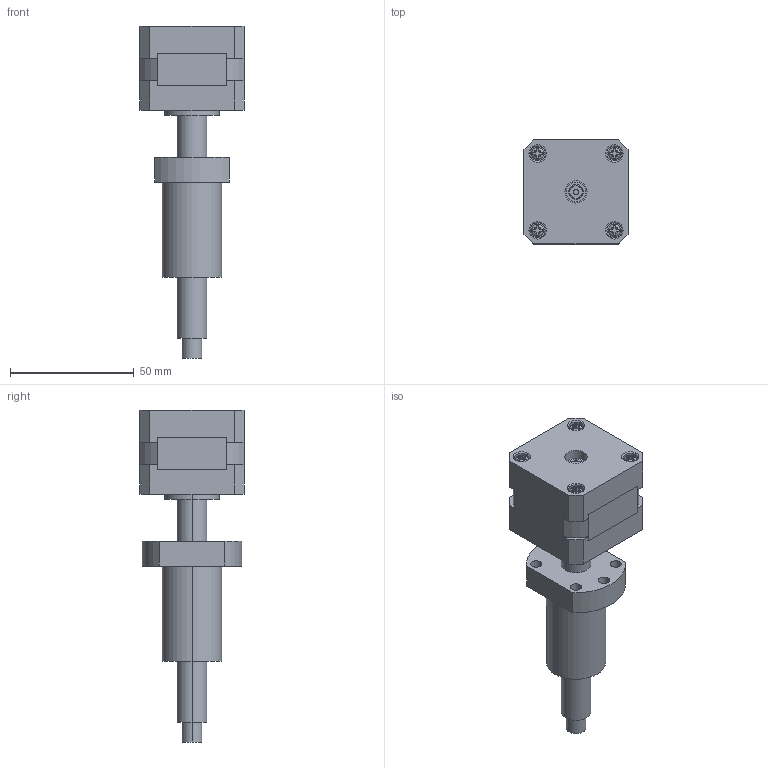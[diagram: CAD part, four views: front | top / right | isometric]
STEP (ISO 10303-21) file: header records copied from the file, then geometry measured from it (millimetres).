
FILE_DESCRIPTION (( 'STEP AP203' ), '1' );
FILE_NAME ('42SE1834-415-BS1210-100-01.STEP', '2022-06-30T12:14:57', ( 'USER-' ), ( 'MS' ), 'SwSTEP 2.0', 'SolidWorks 2018', '' );
FILE_SCHEMA (( 'CONFIG_CONTROL_DESIGN' ));
Length unit declared in the file: millimetre
Products named in the file (1): 42SE1834-415-BS1210-100-01
Bounding box: 42 x 42 x 134 mm (x, y, z)
Volume: 91572.1 mm3; surface area: 29828.4 mm2
Topology: 5 solids, 5 shells, 235 faces, 590 edges, 388 vertices
Faces by surface type: plane 127, cylinder 82, torus 16, cone 10
Entity records: 7321 total; most frequent: CARTESIAN_POINT 1470, DIRECTION 1230, ORIENTED_EDGE 1180, EDGE_CURVE 590, AXIS2_PLACEMENT_3D 460, VERTEX_POINT 388, LINE 310, VECTOR 310
